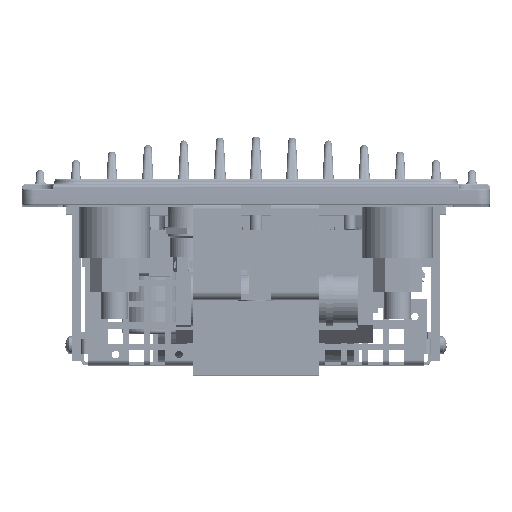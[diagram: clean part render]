
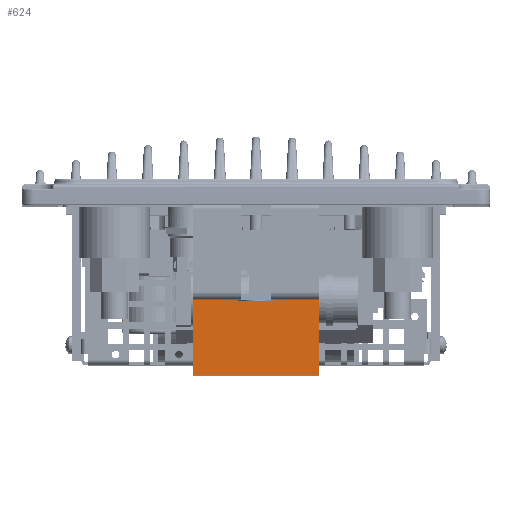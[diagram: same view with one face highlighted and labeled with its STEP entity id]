
A CAD part, top view. The second image highlights one B-rep face of the part: STEP entity #624.
In plain terms, the highlighted planar face has unit normal (0, 0, 1) as drawn and (0, 1, 0) by its records, which use the part's own axes.
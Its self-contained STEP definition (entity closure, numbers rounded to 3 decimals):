
#35=DIRECTION('',(1.,0.,0.));
#36=VECTOR('',#35,15.);
#37=CARTESIAN_POINT('',(-21.,14.5,0.));
#38=LINE('',#37,#36);
#68=DIRECTION('',(1.,0.,0.));
#69=VECTOR('',#68,15.);
#70=CARTESIAN_POINT('',(6.,14.5,0.));
#71=LINE('',#70,#69);
#105=DIRECTION('',(1.,0.,0.));
#106=VECTOR('',#105,42.);
#107=CARTESIAN_POINT('',(-21.,14.5,25.));
#108=LINE('',#107,#106);
#109=DIRECTION('',(0.,0.,1.));
#110=VECTOR('',#109,25.);
#111=CARTESIAN_POINT('',(-21.,14.5,0.));
#112=LINE('',#111,#110);
#113=DIRECTION('',(-1.,0.,0.));
#114=VECTOR('',#113,11.999);
#115=CARTESIAN_POINT('',(6.,14.5,0.5));
#116=LINE('',#115,#114);
#121=DIRECTION('',(0.,0.,1.));
#122=VECTOR('',#121,25.);
#123=CARTESIAN_POINT('',(21.,14.5,0.));
#124=LINE('',#123,#122);
#384=DIRECTION('',(0.,0.,1.));
#385=VECTOR('',#384,0.5);
#386=CARTESIAN_POINT('',(-6.,14.5,0.));
#387=LINE('',#386,#385);
#396=DIRECTION('',(0.,0.,-1.));
#397=VECTOR('',#396,0.5);
#398=CARTESIAN_POINT('',(6.,14.5,0.5));
#399=LINE('',#398,#397);
#431=CARTESIAN_POINT('',(-21.,14.5,0.));
#432=CARTESIAN_POINT('',(-6.,14.5,0.));
#433=VERTEX_POINT('',#431);
#434=VERTEX_POINT('',#432);
#439=CARTESIAN_POINT('',(6.,14.5,0.));
#440=VERTEX_POINT('',#439);
#441=CARTESIAN_POINT('',(21.,14.5,0.));
#442=VERTEX_POINT('',#441);
#465=CARTESIAN_POINT('',(-21.,14.5,25.));
#466=VERTEX_POINT('',#465);
#475=CARTESIAN_POINT('',(-6.,14.5,0.5));
#476=VERTEX_POINT('',#475);
#499=CARTESIAN_POINT('',(21.,14.5,25.));
#500=VERTEX_POINT('',#499);
#509=CARTESIAN_POINT('',(6.,14.5,0.5));
#510=VERTEX_POINT('',#509);
#603=CARTESIAN_POINT('',(21.,14.5,25.));
#604=DIRECTION('',(0.,-1.,0.));
#605=DIRECTION('',(0.,0.,-1.));
#606=AXIS2_PLACEMENT_3D('',#603,#604,#605);
#607=PLANE('',#606);
#608=ORIENTED_EDGE('',*,*,#580,.T.);
#610=ORIENTED_EDGE('',*,*,#609,.T.);
#612=ORIENTED_EDGE('',*,*,#611,.F.);
#614=ORIENTED_EDGE('',*,*,#613,.F.);
#615=ORIENTED_EDGE('',*,*,#564,.T.);
#617=ORIENTED_EDGE('',*,*,#616,.T.);
#619=ORIENTED_EDGE('',*,*,#618,.F.);
#621=ORIENTED_EDGE('',*,*,#620,.T.);
#622=EDGE_LOOP('',(#608,#610,#612,#614,#615,#617,#619,#621));
#623=FACE_OUTER_BOUND('',#622,.F.);
#564=EDGE_CURVE('',#433,#434,#38,.T.);
#580=EDGE_CURVE('',#440,#442,#71,.T.);
#609=EDGE_CURVE('',#442,#500,#124,.T.);
#611=EDGE_CURVE('',#466,#500,#108,.T.);
#613=EDGE_CURVE('',#433,#466,#112,.T.);
#616=EDGE_CURVE('',#434,#476,#387,.T.);
#618=EDGE_CURVE('',#510,#476,#116,.T.);
#620=EDGE_CURVE('',#510,#440,#399,.T.);
#624=ADVANCED_FACE('',(#623),#607,.F.);
